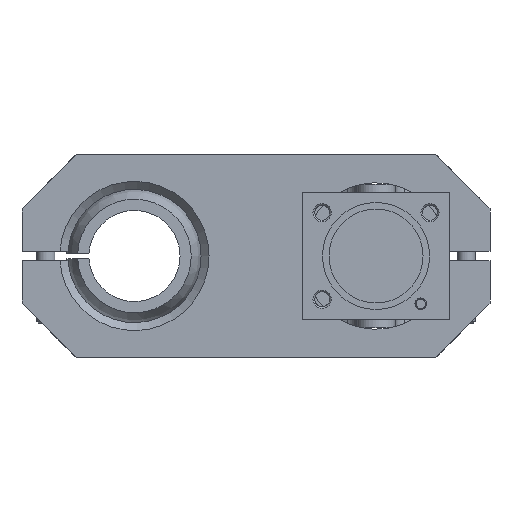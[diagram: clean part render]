
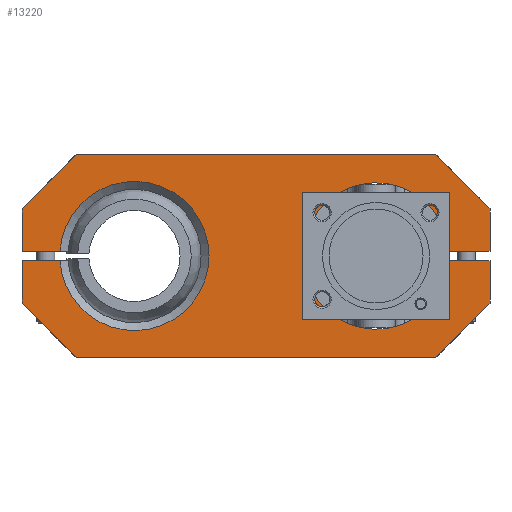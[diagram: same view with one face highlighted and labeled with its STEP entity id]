
A CAD part, left-side view. The second image highlights one B-rep face of the part: STEP entity #13220.
In plain terms, the highlighted planar face has unit normal (-1, 0, 0).
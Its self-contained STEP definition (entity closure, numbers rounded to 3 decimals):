
#1519=LINE('',#21111,#2559);
#1520=LINE('',#21121,#2560);
#1523=LINE('',#21134,#2563);
#1528=LINE('',#21147,#2568);
#1532=LINE('',#21156,#2572);
#1534=LINE('',#21162,#2574);
#1538=LINE('',#21174,#2578);
#1541=LINE('',#21182,#2581);
#1544=LINE('',#21190,#2584);
#1550=LINE('',#21203,#2590);
#1555=LINE('',#21212,#2595);
#1556=LINE('',#21213,#2596);
#1557=LINE('',#21214,#2597);
#1558=LINE('',#21215,#2598);
#2559=VECTOR('',#17507,1000.);
#2560=VECTOR('',#17512,1000.);
#2563=VECTOR('',#17519,1000.);
#2568=VECTOR('',#17528,1000.);
#2572=VECTOR('',#17534,1000.);
#2574=VECTOR('',#17540,1000.);
#2578=VECTOR('',#17552,1000.);
#2581=VECTOR('',#17559,1000.);
#2584=VECTOR('',#17566,1000.);
#2590=VECTOR('',#17574,1000.);
#2595=VECTOR('',#17587,1000.);
#2596=VECTOR('',#17588,1000.);
#2597=VECTOR('',#17589,1000.);
#2598=VECTOR('',#17590,1000.);
#5635=ORIENTED_EDGE('',*,*,#7311,.F.);
#5636=ORIENTED_EDGE('',*,*,#7264,.F.);
#5637=ORIENTED_EDGE('',*,*,#7305,.F.);
#5638=ORIENTED_EDGE('',*,*,#7312,.F.);
#5639=ORIENTED_EDGE('',*,*,#7299,.F.);
#5640=ORIENTED_EDGE('',*,*,#7313,.F.);
#5641=ORIENTED_EDGE('',*,*,#7295,.F.);
#5642=ORIENTED_EDGE('',*,*,#7291,.F.);
#5643=ORIENTED_EDGE('',*,*,#7288,.T.);
#5644=ORIENTED_EDGE('',*,*,#7285,.F.);
#5645=ORIENTED_EDGE('',*,*,#7282,.F.);
#5646=ORIENTED_EDGE('',*,*,#7314,.F.);
#5647=ORIENTED_EDGE('',*,*,#7278,.F.);
#5648=ORIENTED_EDGE('',*,*,#7315,.F.);
#5649=ORIENTED_EDGE('',*,*,#7272,.F.);
#5650=ORIENTED_EDGE('',*,*,#7267,.F.);
#7264=EDGE_CURVE('',#8371,#8367,#1519,.T.);
#7267=EDGE_CURVE('',#8373,#8375,#1520,.T.);
#7272=EDGE_CURVE('',#8375,#8379,#1523,.T.);
#7278=EDGE_CURVE('',#8384,#8385,#1528,.T.);
#7282=EDGE_CURVE('',#8388,#8389,#1532,.T.);
#7285=EDGE_CURVE('',#8389,#8391,#1534,.T.);
#7288=EDGE_CURVE('',#8393,#8391,#8798,.T.);
#7291=EDGE_CURVE('',#8393,#8395,#1538,.T.);
#7295=EDGE_CURVE('',#8395,#8398,#1541,.T.);
#7299=EDGE_CURVE('',#8401,#8402,#1544,.T.);
#7305=EDGE_CURVE('',#8406,#8371,#1550,.T.);
#7311=EDGE_CURVE('',#8367,#8373,#8803,.F.);
#7312=EDGE_CURVE('',#8402,#8406,#1555,.T.);
#7313=EDGE_CURVE('',#8398,#8401,#1556,.T.);
#7314=EDGE_CURVE('',#8385,#8388,#1557,.T.);
#7315=EDGE_CURVE('',#8379,#8384,#1558,.T.);
#8367=VERTEX_POINT('',#21099);
#8371=VERTEX_POINT('',#21110);
#8373=VERTEX_POINT('',#21119);
#8375=VERTEX_POINT('',#21122);
#8379=VERTEX_POINT('',#21135);
#8384=VERTEX_POINT('',#21146);
#8385=VERTEX_POINT('',#21148);
#8388=VERTEX_POINT('',#21155);
#8389=VERTEX_POINT('',#21157);
#8391=VERTEX_POINT('',#21163);
#8393=VERTEX_POINT('',#21169);
#8395=VERTEX_POINT('',#21175);
#8398=VERTEX_POINT('',#21183);
#8401=VERTEX_POINT('',#21191);
#8402=VERTEX_POINT('',#21192);
#8406=VERTEX_POINT('',#21202);
#8798=CIRCLE('',#14366,24.1);
#8803=CIRCLE('',#14377,24.536);
#9560=EDGE_LOOP('',(#5635,#5636,#5637,#5638,#5639,#5640,#5641,#5642,#5643,
#5644,#5645,#5646,#5647,#5648,#5649,#5650));
#10365=FACE_BOUND('',#9560,.T.);
#10801=PLANE('',#14376);
#13220=ADVANCED_FACE('',(#10365),#10801,.F.);
#14366=AXIS2_PLACEMENT_3D('',#21168,#17545,#17546);
#14376=AXIS2_PLACEMENT_3D('',#21210,#17583,#17584);
#14377=AXIS2_PLACEMENT_3D('',#21211,#17585,#17586);
#17507=DIRECTION('',(0.,-1.,0.));
#17512=DIRECTION('',(0.,1.,0.));
#17519=DIRECTION('',(0.,0.,1.));
#17528=DIRECTION('',(0.,-1.,0.));
#17534=DIRECTION('',(0.,0.,-1.));
#17540=DIRECTION('',(0.,1.,0.));
#17545=DIRECTION('',(1.,0.,0.));
#17546=DIRECTION('',(0.,0.,-1.));
#17552=DIRECTION('',(0.,-1.,0.));
#17559=DIRECTION('',(0.,0.,-1.));
#17566=DIRECTION('',(0.,1.,0.));
#17574=DIRECTION('',(0.,0.,1.));
#17583=DIRECTION('',(1.,0.,0.));
#17584=DIRECTION('',(0.,0.,-1.));
#17585=DIRECTION('',(1.,0.,0.));
#17586=DIRECTION('',(0.,0.,-1.));
#17587=DIRECTION('',(0.,0.707,0.707));
#17588=DIRECTION('',(0.,0.707,-0.707));
#17589=DIRECTION('',(0.,-0.707,-0.707));
#17590=DIRECTION('',(0.,-0.707,0.707));
#21099=CARTESIAN_POINT('',(-7.95,141.486,-1.575));
#21110=CARTESIAN_POINT('',(-7.95,154.,-1.575));
#21111=CARTESIAN_POINT('',(-7.95,154.,-1.575));
#21119=CARTESIAN_POINT('',(-7.95,141.486,1.575));
#21121=CARTESIAN_POINT('',(-7.95,129.602,1.575));
#21122=CARTESIAN_POINT('',(-7.95,154.,1.575));
#21134=CARTESIAN_POINT('',(-7.95,154.,1.575));
#21135=CARTESIAN_POINT('',(-7.95,154.,15.47));
#21146=CARTESIAN_POINT('',(-7.95,136.22,33.25));
#21147=CARTESIAN_POINT('',(-7.95,154.,33.25));
#21148=CARTESIAN_POINT('',(-7.95,17.78,33.25));
#21155=CARTESIAN_POINT('',(-7.95,0.,15.47));
#21156=CARTESIAN_POINT('',(-7.95,0.,33.25));
#21157=CARTESIAN_POINT('',(-7.95,0.,1.575));
#21162=CARTESIAN_POINT('',(-7.95,0.,1.575));
#21163=CARTESIAN_POINT('',(-7.95,13.452,1.575));
#21168=CARTESIAN_POINT('',(-7.95,37.5,0.));
#21169=CARTESIAN_POINT('',(-7.95,13.452,-1.575));
#21174=CARTESIAN_POINT('',(-7.95,13.452,-1.575));
#21175=CARTESIAN_POINT('',(-7.95,0.,-1.575));
#21182=CARTESIAN_POINT('',(-7.95,0.,-1.575));
#21183=CARTESIAN_POINT('',(-7.95,0.,-15.47));
#21190=CARTESIAN_POINT('',(-7.95,0.,-33.25));
#21191=CARTESIAN_POINT('',(-7.95,17.78,-33.25));
#21192=CARTESIAN_POINT('',(-7.95,136.22,-33.25));
#21202=CARTESIAN_POINT('',(-7.95,154.,-15.47));
#21203=CARTESIAN_POINT('',(-7.95,154.,-33.25));
#21210=CARTESIAN_POINT('',(-7.95,37.5,0.));
#21211=CARTESIAN_POINT('',(-7.95,117.,0.));
#21212=CARTESIAN_POINT('',(-7.95,136.22,-33.25));
#21213=CARTESIAN_POINT('',(-7.95,0.,-15.47));
#21214=CARTESIAN_POINT('',(-7.95,17.78,33.25));
#21215=CARTESIAN_POINT('',(-7.95,154.,15.47));
